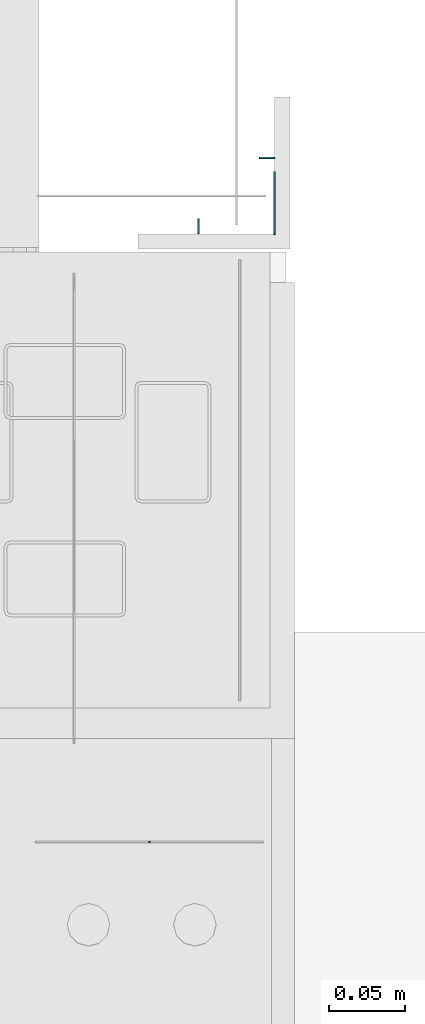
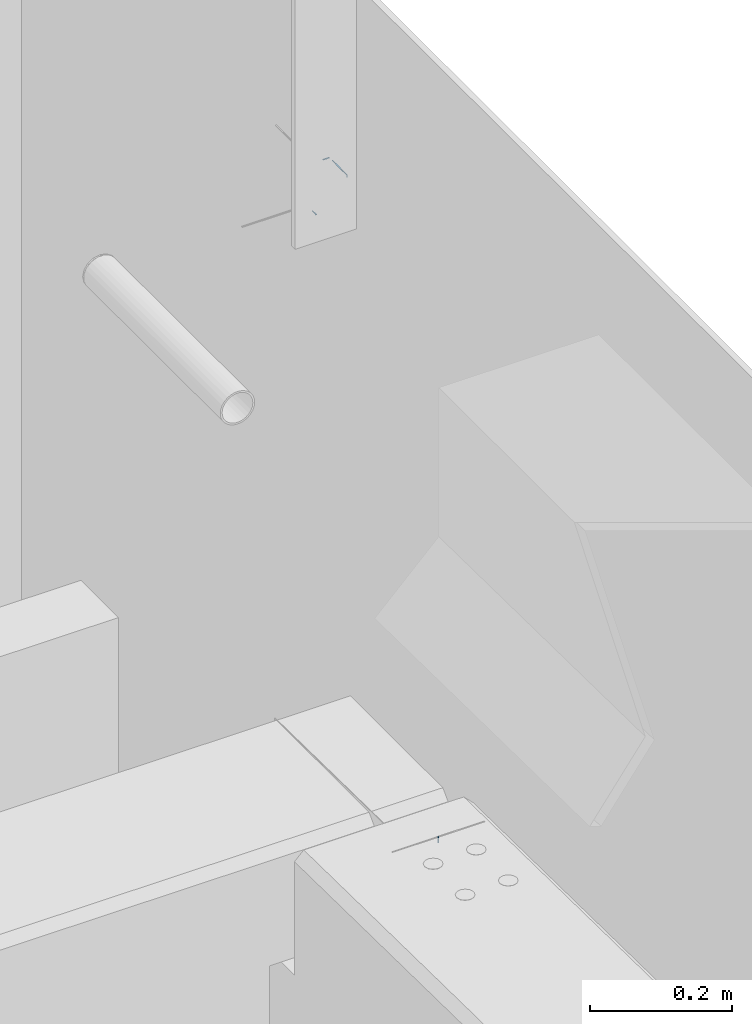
# One storey, part 87 of 186: 5 beams.
"""IFC4X3_ADD2 building model written with IfcOpenShell, lengths in millimetres."""

from ifc_helpers import new_model, si_unit, direction, frame, frame_2d, origin_with_axes, place, context, subcontext, project, spatial, rectangle, extrude, material, element, save


model = new_model("IFC4X3_ADD2")

# Units and contexts
model_context = context("Model", 3, precision=1e-05, world=origin_with_axes(), true_north=direction((0.0, 1.0)))
body_context = subcontext(model_context, "Body", "Model", "MODEL_VIEW")
ifc_project = project(units=[si_unit("LENGTHUNIT", "METRE", prefix="MILLI"), si_unit("AREAUNIT", "SQUARE_METRE"), si_unit("VOLUMEUNIT", "CUBIC_METRE"), si_unit("PLANEANGLEUNIT", "RADIAN"), si_unit("TIMEUNIT", "SECOND"), si_unit("MASSUNIT", "GRAM")], contexts=[model_context])

# Site, building, storey
site_placement = place(None, origin_with_axes())
site = spatial("IfcSite", under=ifc_project, at=site_placement, Name="Site", CompositionType="ELEMENT")
building_placement = place(site_placement, origin_with_axes())
building = spatial("IfcBuilding", under=site, at=building_placement, Name="IFC Building Story")
storey_placement = place(building_placement, frame((0.0, 0.0, 4370.0), z_axis=(0.0, 0.0, 1.0), x_axis=(1.0, 0.0, 0.0)))
storey = spatial("IfcBuildingStorey", under=building, at=storey_placement, Name="ETAGE 10 (1)", Elevation=4370.0)

# Beams
ifc_material = material(Name="STEEL/Accessory_invisible")
beam_1_placement = place(storey_placement, frame((48493.688, 32.5, 4020.0), z_axis=(1.0, 0.0, 0.0), x_axis=(0.0, 0.0, 1.0)))
element("IfcBeam", 1, at=beam_1_placement, inside=storey, material=ifc_material, Name="MP12", ObjectType="1*1 7", context=body_context, shape_type="SweptSolid", body=[
    extrude(rectangle(XDim=0.9999999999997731, YDim=41.0, at=frame_2d((0.0, 5.95523630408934e-12), x_axis=(1.0, 0.0))), origin_with_axes(), (0.0, 0.0, 1.0), 1.0),
])
beam_2_placement = place(storey_placement, frame((48494.688, 12.0, 4018.09747859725), z_axis=(-1.0, 0.0, 0.0), x_axis=(0.0, 0.0, 1.0)))
element("IfcBeam", 2, at=beam_2_placement, inside=storey, material=ifc_material, Name="ZW1", ObjectType="1*1 8", context=body_context, shape_type="SweptSolid", body=[
    extrude(rectangle(XDim=2.79999999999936, YDim=1.0, at=frame_2d((0.0, 5.95523630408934e-12), x_axis=(1.0, 0.0))), origin_with_axes(), (0.0, 0.0, 1.0), 1.0),
])
beam_3_placement = place(storey_placement, frame((48443.688, 17.0, 3969.5), z_axis=(1.0, 0.0, 0.0), x_axis=(0.0, 0.0, -1.0)))
element("IfcBeam", 3, at=beam_3_placement, inside=storey, material=ifc_material, Name="MP21", ObjectType="1*1 9", context=body_context, shape_type="SweptSolid", body=[
    extrude(rectangle(XDim=0.9999999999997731, YDim=10.0, at=frame_2d((0.0, 5.95523630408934e-12), x_axis=(1.0, 0.0))), origin_with_axes(), (0.0, 0.0, 1.0), 1.0),
])
beam_4_placement = place(storey_placement, frame((48494.188, 62.0, 4019.5), z_axis=(-1.0, 0.0, 0.0), x_axis=(0.0, -1.0, 0.0)))
element("IfcBeam", 4, at=beam_4_placement, inside=storey, material=ifc_material, Name="MP21", ObjectType="1*1 3", context=body_context, shape_type="SweptSolid", body=[
    extrude(rectangle(XDim=0.9999999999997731, YDim=0.9999999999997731, at=frame_2d((0.0, 5.95523630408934e-12), x_axis=(1.0, 0.0))), origin_with_axes(), (0.0, 0.0, 1.0), 10.0),
])
beam_5_placement = place(storey_placement, frame((48412.192835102, -388.0289086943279, 3150.73222087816), z_axis=(-1.0, 0.0, 0.0), x_axis=(0.0, 0.01500926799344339, 0.9998873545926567)))
element("IfcBeam", 5, at=beam_5_placement, inside=storey, material=ifc_material, Name="ZW1", ObjectType="1*1 12", context=body_context, shape_type="SweptSolid", body=[
    extrude(rectangle(XDim=10.0, YDim=1.00000000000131, at=frame_2d((0.0, 5.95523630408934e-12), x_axis=(1.0, 0.0))), origin_with_axes(), (0.0, 0.0, 1.0), 1.0),
])

save(model, "model.ifc")
